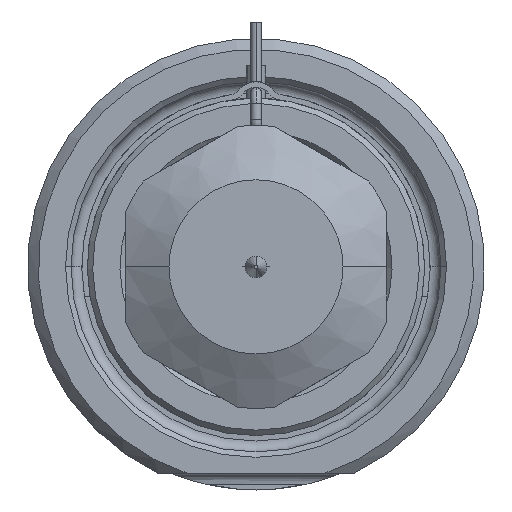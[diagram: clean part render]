
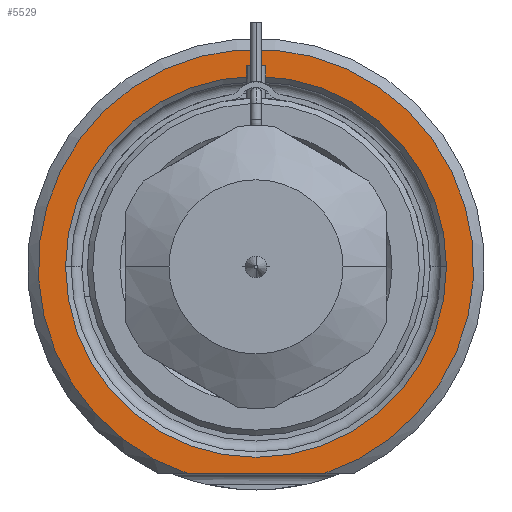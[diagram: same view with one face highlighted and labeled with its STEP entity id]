
A CAD part, front view. The second image highlights one B-rep face of the part: STEP entity #5529.
In plain terms, the highlighted planar face has unit normal (0, -1, 0).
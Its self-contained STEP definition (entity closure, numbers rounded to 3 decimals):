
#1506=DIRECTION('',(1.,0.,0.));
#1507=VECTOR('',#1506,12.49);
#1508=CARTESIAN_POINT('',(-6.245,0.,-19.));
#1509=LINE('',#1508,#1507);
#1510=CARTESIAN_POINT('',(0.,0.,0.));
#1511=DIRECTION('',(0.,1.,0.));
#1512=DIRECTION('',(-1.,0.,0.));
#1513=AXIS2_PLACEMENT_3D('',#1510,#1511,#1512);
#1515=CARTESIAN_POINT('',(0.,0.,0.));
#1516=DIRECTION('',(0.,1.,0.));
#1517=DIRECTION('',(1.,0.,0.));
#1518=AXIS2_PLACEMENT_3D('',#1515,#1516,#1517);
#1624=CARTESIAN_POINT('',(0.,0.,0.));
#1625=DIRECTION('',(0.,-1.,0.));
#1626=DIRECTION('',(0.312,0.,-0.95));
#1627=AXIS2_PLACEMENT_3D('',#1624,#1625,#1626);
#3422=CARTESIAN_POINT('',(-17.5,0.,0.));
#3423=CARTESIAN_POINT('',(17.5,0.,0.));
#3424=VERTEX_POINT('',#3422);
#3425=VERTEX_POINT('',#3423);
#3466=CARTESIAN_POINT('',(-6.245,0.,-19.));
#3467=CARTESIAN_POINT('',(6.245,0.,-19.));
#3468=VERTEX_POINT('',#3466);
#3469=VERTEX_POINT('',#3467);
#5513=CARTESIAN_POINT('',(0.,0.,0.));
#5514=DIRECTION('',(0.,-1.,0.));
#5515=DIRECTION('',(1.,0.,0.));
#5516=AXIS2_PLACEMENT_3D('',#5513,#5514,#5515);
#5517=PLANE('',#5516);
#5519=ORIENTED_EDGE('',*,*,#5518,.F.);
#5521=ORIENTED_EDGE('',*,*,#5520,.F.);
#5522=EDGE_LOOP('',(#5519,#5521));
#5523=FACE_OUTER_BOUND('',#5522,.F.);
#5524=ORIENTED_EDGE('',*,*,#5503,.F.);
#5526=ORIENTED_EDGE('',*,*,#5525,.F.);
#5527=EDGE_LOOP('',(#5524,#5526));
#5528=FACE_BOUND('',#5527,.F.);
#5529=ADVANCED_FACE('',(#5523,#5528),#5517,.T.);
#1514=CIRCLE('',#1513,17.5);
#1519=CIRCLE('',#1518,17.5);
#1628=CIRCLE('',#1627,20.);
#5503=EDGE_CURVE('',#3424,#3425,#1514,.T.);
#5518=EDGE_CURVE('',#3468,#3469,#1509,.T.);
#5520=EDGE_CURVE('',#3469,#3468,#1628,.T.);
#5525=EDGE_CURVE('',#3425,#3424,#1519,.T.);
